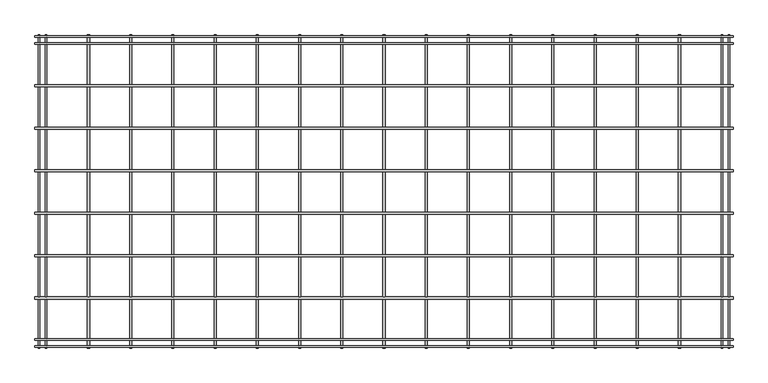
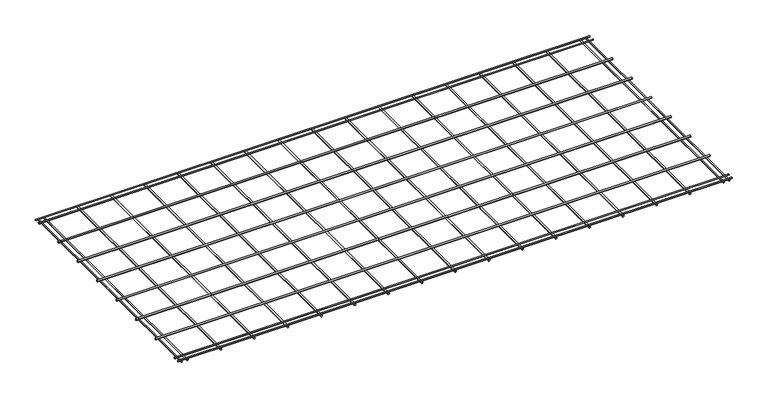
"""IFC4 building model written with IfcOpenShell, lengths in millimetres: proxy geometry, United Steel 147 Double Edge  Mesh : United Steel 147 Double Edge  Mesh."""

import ifcopenshell
import ifcopenshell.guid

model = None  # the IFC model being written
_history = None  # IfcOwnerHistory: only IFC2X3 demands one
_inside = {}  # id of a spatial element -> (the spatial element, [elements in it])
_under = {}  # id of a project, library or spatial element -> (it, [spatial elements below it])
_declared = {}  # id of a project -> (the project, [libraries it declares])
_typed = {}  # id of a type object -> (the type object, [elements of that type])
_made_of = {}  # id of a material, layer set ... -> (it, [elements and type objects made of it])


def new_model(schema):
    """Start an empty IFC model of exactly this schema.

    Asked for "IFC4X3", IfcOpenShell would pick the latest addendum, in which some entities
    have other attributes; the version numbers below select the first issue.
    IFC2X3 requires an IfcOwnerHistory on every rooted entity: one is made here for all.
    """
    global model, _history
    if schema == "IFC4X3":
        model = ifcopenshell.file(schema_version=(4, 3, 0, 0))
    else:
        model = ifcopenshell.file(schema=schema)
    _inside.clear()
    _under.clear()
    _declared.clear()
    _typed.clear()
    _made_of.clear()
    _history = None
    if model.schema == "IFC2X3":
        org = make("IfcOrganization", Name="unknown")
        user = make(
            "IfcPersonAndOrganization",
            ThePerson=make("IfcPerson", FamilyName="unknown"),
            TheOrganization=org,
        )
        app = make(
            "IfcApplication",
            ApplicationDeveloper=org,
            Version="unknown",
            ApplicationFullName="unknown",
            ApplicationIdentifier="unknown",
        )
        _history = make(
            "IfcOwnerHistory",
            OwningUser=user,
            OwningApplication=app,
            ChangeAction="ADDED",
            CreationDate=0,
        )
    return model


def make(cls, **values):
    """One entity of the class cls with the attributes given. An attribute that is None is left unset."""
    return model.create_entity(
        cls, **{name: value for name, value in values.items() if value is not None}
    )


def rooted(cls, **values):
    """An entity with a GlobalId (a new one), such as an element, a storey or a relation."""
    return make(cls, GlobalId=ifcopenshell.guid.new(), OwnerHistory=_history, **values)


def si_unit(unit_type, name, prefix=None):
    """IfcSIUnit, for example si_unit("LENGTHUNIT", "METRE", prefix="MILLI")."""
    return make("IfcSIUnit", UnitType=unit_type, Prefix=prefix, Name=name)


def assignment(units):
    """IfcUnitAssignment: the units of a project."""
    return None if units is None else make("IfcUnitAssignment", Units=units)


def point(xyz):
    """IfcCartesianPoint."""
    return None if xyz is None else make("IfcCartesianPoint", Coordinates=xyz)


def direction(xyz):
    """IfcDirection."""
    return None if xyz is None else make("IfcDirection", DirectionRatios=xyz)


def frame(location, z_axis=None, x_axis=None):
    """IfcAxis2Placement3D, a coordinate frame: its origin and axes. An axis left out is left unset."""
    return make(
        "IfcAxis2Placement3D",
        Location=point(location),
        Axis=direction(z_axis),
        RefDirection=direction(x_axis),
    )


def frame_2d(location, x_axis=None):
    """IfcAxis2Placement2D, a coordinate frame in the plane: its origin and x axis."""
    return make(
        "IfcAxis2Placement2D", Location=point(location), RefDirection=direction(x_axis)
    )


def origin():
    """The frame at (0, 0, 0) with its axes left unset."""
    return frame((0.0, 0.0, 0.0))


def place(relative_to, where):
    """IfcLocalPlacement: puts the frame where relative to a parent placement (None: the world)."""
    return make(
        "IfcLocalPlacement", PlacementRelTo=relative_to, RelativePlacement=where
    )


def context(
    kind, dimensions, precision=None, world=None, true_north=None, identifier=None
):
    """IfcGeometricRepresentationContext, for example the 3D "Model" context."""
    return make(
        "IfcGeometricRepresentationContext",
        ContextIdentifier=identifier,
        ContextType=kind,
        CoordinateSpaceDimension=dimensions,
        Precision=precision,
        WorldCoordinateSystem=world,
        TrueNorth=true_north,
    )


def project(units=None, contexts=None):
    """IfcProject with its units and contexts."""
    return rooted(
        "IfcProject",
        Name="project",
        RepresentationContexts=contexts,
        UnitsInContext=assignment(units),
    )


def spatial(cls, under=None, at=None, **own):
    """A site, building, storey or space (cls), placed at a placement, below another one or the project."""
    s = rooted(cls, ObjectPlacement=at, **own)
    if under is not None:
        _under.setdefault(under.id(), (under, []))[1].append(s)
    return s


def circle_curve(where, radius):
    """IfcCircle in the frame where."""
    return make("IfcCircle", Position=where, Radius=radius)


def trimmed(basis, trim1, trim2, sense, master):
    """IfcTrimmedCurve: the piece of a basis curve between two trims."""
    return make(
        "IfcTrimmedCurve",
        BasisCurve=basis,
        Trim1=trim1,
        Trim2=trim2,
        SenseAgreement=sense,
        MasterRepresentation=master,
    )


def segment(curve, same_sense, transition):
    """IfcCompositeCurveSegment."""
    return make(
        "IfcCompositeCurveSegment",
        Transition=transition,
        SameSense=same_sense,
        ParentCurve=curve,
    )


def composite_curve(segments, self_intersect=None):
    """IfcCompositeCurve: segments joined end to end."""
    return make("IfcCompositeCurve", Segments=segments, SelfIntersect=self_intersect)


def outline(outer, holes=None, kind="AREA"):
    """IfcArbitraryClosedProfileDef: a profile drawn as a closed curve; with holes, ...WithVoids."""
    if holes is None:
        return make("IfcArbitraryClosedProfileDef", ProfileType=kind, OuterCurve=outer)
    return make(
        "IfcArbitraryProfileDefWithVoids",
        ProfileType=kind,
        OuterCurve=outer,
        InnerCurves=holes,
    )


def extrude(swept, where, along, depth):
    """IfcExtrudedAreaSolid: the profile swept, set in the frame where, extruded along a direction by depth."""
    return make(
        "IfcExtrudedAreaSolid",
        SweptArea=swept,
        Position=where,
        ExtrudedDirection=direction(along),
        Depth=depth,
    )


def shape(context_of_items, identifier, shape_type, items):
    """IfcShapeRepresentation: the items that make up one representation, for example the "Body"."""
    return make(
        "IfcShapeRepresentation",
        ContextOfItems=context_of_items,
        RepresentationIdentifier=identifier,
        RepresentationType=shape_type,
        Items=items,
    )


def source(mapping_origin, context_of_items, identifier, shape_type, items):
    """IfcRepresentationMap: a shape defined once, which mapped items show again and again."""
    return make(
        "IfcRepresentationMap",
        MappingOrigin=mapping_origin,
        MappedRepresentation=shape(context_of_items, identifier, shape_type, items),
    )


def transform(
    local_origin,
    x_axis=None,
    y_axis=None,
    z_axis=None,
    scale=None,
    scale2=None,
    scale3=None,
    uniform=True,
):
    """IfcCartesianTransformationOperator3D, or its non-uniform kind. x_axis, y_axis, z_axis: its Axis1, 2, 3."""
    if uniform:
        return make(
            "IfcCartesianTransformationOperator3D",
            Axis1=direction(x_axis),
            Axis2=direction(y_axis),
            LocalOrigin=point(local_origin),
            Scale=scale,
            Axis3=direction(z_axis),
        )
    return make(
        "IfcCartesianTransformationOperator3DnonUniform",
        Axis1=direction(x_axis),
        Axis2=direction(y_axis),
        LocalOrigin=point(local_origin),
        Scale=scale,
        Axis3=direction(z_axis),
        Scale2=scale2,
        Scale3=scale3,
    )


def mapped(mapping_source, mapping_target):
    """IfcMappedItem: shows the shape of a source again, moved by a transform."""
    return make(
        "IfcMappedItem", MappingSource=mapping_source, MappingTarget=mapping_target
    )


def made_of(thing, what):
    """Note that an element or type object is made of a material, layer set ...; save() writes the relation."""
    if what is not None:
        _made_of.setdefault(what.id(), (what, []))[1].append(thing)
    return thing


def element(
    cls,
    number,
    at=None,
    inside=None,
    cuts=None,
    type_object=None,
    material=None,
    context=None,
    identifier="Body",
    shape_type=None,
    held_by="IfcProductDefinitionShape",
    body=None,
    shapes=None,
    **own,
):
    """One element of the class cls, such as IfcWall. Its Tag is "e" and its number.

    at: its placement. inside: the storey or other place that contains it. cuts: it is an
    opening in that element (IfcRelVoidsElement). A single representation is given by context,
    identifier, shape_type and body (its items); several are given by shapes. held_by: the class
    of the entity that holds the representations. save() writes the other relations.
    """
    e = rooted(cls, Tag="e%d" % number, ObjectPlacement=at, **own)
    if body is not None:
        shapes = [shape(context, identifier, shape_type, body)]
    if shapes is not None:
        e.Representation = make(held_by, Representations=shapes)
    if inside is not None:
        _inside.setdefault(inside.id(), (inside, []))[1].append(e)
    if cuts is not None:
        rooted(
            "IfcRelVoidsElement", RelatingBuildingElement=cuts, RelatedOpeningElement=e
        )
    if type_object is not None:
        _typed.setdefault(type_object.id(), (type_object, []))[1].append(e)
    return made_of(e, material)


def aggregate(whole, parts):
    """IfcRelAggregates: a whole, such as a stair, and the parts it consists of."""
    return rooted("IfcRelAggregates", RelatingObject=whole, RelatedObjects=parts)


def save(model, path):
    """Write the relations noted so far, then the file.

    IfcRelAggregates (storeys below a building ...), IfcRelContainedInSpatialStructure (elements
    in a storey), IfcRelDefinesByType, IfcRelAssociatesMaterial and IfcRelDeclares: one each for
    every whole, place, type object, material and project.
    """
    for whole, parts in _under.values():
        aggregate(whole, parts)
    for where, things in _inside.values():
        rooted(
            "IfcRelContainedInSpatialStructure",
            RelatedElements=things,
            RelatingStructure=where,
        )
    for kind, things in _typed.values():
        rooted("IfcRelDefinesByType", RelatedObjects=things, RelatingType=kind)
    for what, things in _made_of.values():
        rooted("IfcRelAssociatesMaterial", RelatedObjects=things, RelatingMaterial=what)
    for by, libraries in _declared.values():
        rooted("IfcRelDeclares", RelatingContext=by, RelatedDefinitions=libraries)
    model.write(path)


def generic_models_3174299a(model_context):
    return source(origin(), model_context, "Body", "SweptSolid", [
        extrude(outline(composite_curve([segment(trimmed(circle_curve(frame_2d((-2159.9992801, 20.220785)), 5.3), [point((-2154.6992801, 20.220785))], [point((-2165.2992801, 20.220785))], False, "CARTESIAN"), True, "CONTINUOUS"), segment(trimmed(circle_curve(frame_2d((-2159.9992801, 20.220785)), 5.3), [point((-2165.2992801, 20.220785))], [point((-2154.6992801, 20.220785))], False, "CARTESIAN"), True, "CONTINUOUS")], self_intersect=False)), frame((-4950.0, 0.0, 0.0), z_axis=(1.0, 0.0, 0.0), x_axis=(0.0, 1.0, 0.0)), (0.0, 0.0, 1.0), 4950.0),
        extrude(outline(composite_curve([segment(trimmed(circle_curve(frame_2d((-2209.9992801, 20.220785)), 5.3), [point((-2204.6992801, 20.220785))], [point((-2215.2992801, 20.220785))], False, "CARTESIAN"), True, "CONTINUOUS"), segment(trimmed(circle_curve(frame_2d((-2209.9992801, 20.220785)), 5.3), [point((-2215.2992801, 20.220785))], [point((-2204.6992801, 20.220785))], False, "CARTESIAN"), True, "CONTINUOUS")], self_intersect=False)), frame((-4950.0, 0.0, 0.0), z_axis=(1.0, 0.0, 0.0), x_axis=(0.0, 1.0, 0.0)), (0.0, 0.0, 1.0), 4950.0),
        extrude(outline(composite_curve([segment(trimmed(circle_curve(frame_2d((9.684424, -4869.9995481)), 5.3), [point((9.684424, -4875.2995481))], [point((9.684424, -4864.6995481))], False, "CARTESIAN"), True, "CONTINUOUS"), segment(trimmed(circle_curve(frame_2d((9.684424, -4869.9995481)), 5.3), [point((9.684424, -4864.6995481))], [point((9.684424, -4875.2995481))], False, "CARTESIAN"), True, "CONTINUOUS")], self_intersect=False)), frame((0.0, -2220.0, 0.0), z_axis=(0.0, 1.0, 0.0), x_axis=(0.0, 0.0, 1.0)), (0.0, 0.0, 1.0), 2220.0),
        extrude(outline(composite_curve([segment(trimmed(circle_curve(frame_2d((9.684424, -4920.0004519)), 5.3), [point((9.684424, -4914.7004519))], [point((9.684424, -4925.3004519))], False, "CARTESIAN"), True, "CONTINUOUS"), segment(trimmed(circle_curve(frame_2d((9.684424, -4920.0004519)), 5.3), [point((9.684424, -4925.3004519))], [point((9.684424, -4914.7004519))], False, "CARTESIAN"), True, "CONTINUOUS")], self_intersect=False)), frame((0.0, -2220.0, 0.0), z_axis=(0.0, 1.0, 0.0), x_axis=(0.0, 0.0, 1.0)), (0.0, 0.0, 1.0), 2220.0),
        extrude(outline(composite_curve([segment(trimmed(circle_curve(frame_2d((-1564.5282591, 22.48641)), 7.5), [point((-1572.0282591, 22.48641))], [point((-1557.0282591, 22.48641))], False, "CARTESIAN"), True, "CONTINUOUS"), segment(trimmed(circle_curve(frame_2d((-1564.5282591, 22.48641)), 7.5), [point((-1557.0282591, 22.48641))], [point((-1572.0282591, 22.48641))], False, "CARTESIAN"), True, "CONTINUOUS")], self_intersect=False)), frame((-4950.0, 0.0, 0.0), z_axis=(1.0, 0.0, 0.0), x_axis=(0.0, 1.0, 0.0)), (0.0, 0.0, 1.0), 4950.0),
        extrude(outline(composite_curve([segment(trimmed(circle_curve(frame_2d((-1263.4565182, 22.48641)), 7.5), [point((-1270.9565182, 22.48641))], [point((-1255.9565182, 22.48641))], False, "CARTESIAN"), True, "CONTINUOUS"), segment(trimmed(circle_curve(frame_2d((-1263.4565182, 22.48641)), 7.5), [point((-1255.9565182, 22.48641))], [point((-1270.9565182, 22.48641))], False, "CARTESIAN"), True, "CONTINUOUS")], self_intersect=False)), frame((-4950.0, 0.0, 0.0), z_axis=(1.0, 0.0, 0.0), x_axis=(0.0, 1.0, 0.0)), (0.0, 0.0, 1.0), 4950.0),
        extrude(outline(composite_curve([segment(trimmed(circle_curve(frame_2d((-962.3847773, 22.48641)), 7.5), [point((-969.8847773, 22.48641))], [point((-954.8847773, 22.48641))], False, "CARTESIAN"), True, "CONTINUOUS"), segment(trimmed(circle_curve(frame_2d((-962.3847773, 22.48641)), 7.5), [point((-954.8847773, 22.48641))], [point((-969.8847773, 22.48641))], False, "CARTESIAN"), True, "CONTINUOUS")], self_intersect=False)), frame((-4950.0, 0.0, 0.0), z_axis=(1.0, 0.0, 0.0), x_axis=(0.0, 1.0, 0.0)), (0.0, 0.0, 1.0), 4950.0),
        extrude(outline(composite_curve([segment(trimmed(circle_curve(frame_2d((-661.3130364, 22.48641)), 7.5), [point((-668.8130364, 22.48641))], [point((-653.8130364, 22.48641))], False, "CARTESIAN"), True, "CONTINUOUS"), segment(trimmed(circle_curve(frame_2d((-661.3130364, 22.48641)), 7.5), [point((-653.8130364, 22.48641))], [point((-668.8130364, 22.48641))], False, "CARTESIAN"), True, "CONTINUOUS")], self_intersect=False)), frame((-4950.0, 0.0, 0.0), z_axis=(1.0, 0.0, 0.0), x_axis=(0.0, 1.0, 0.0)), (0.0, 0.0, 1.0), 4950.0),
        extrude(outline(composite_curve([segment(trimmed(circle_curve(frame_2d((-1865.6, 22.48641)), 7.5), [point((-1873.1, 22.48641))], [point((-1858.1, 22.48641))], False, "CARTESIAN"), True, "CONTINUOUS"), segment(trimmed(circle_curve(frame_2d((-1865.6, 22.48641)), 7.5), [point((-1858.1, 22.48641))], [point((-1873.1, 22.48641))], False, "CARTESIAN"), True, "CONTINUOUS")], self_intersect=False)), frame((-4950.0, 0.0, 0.0), z_axis=(1.0, 0.0, 0.0), x_axis=(0.0, 1.0, 0.0)), (0.0, 0.0, 1.0), 4950.0),
        extrude(outline(composite_curve([segment(trimmed(circle_curve(frame_2d((-60.0007199, 20.220785)), 5.3), [point((-65.3007199, 20.220785))], [point((-54.7007199, 20.220785))], False, "CARTESIAN"), True, "CONTINUOUS"), segment(trimmed(circle_curve(frame_2d((-60.0007199, 20.220785)), 5.3), [point((-54.7007199, 20.220785))], [point((-65.3007199, 20.220785))], False, "CARTESIAN"), True, "CONTINUOUS")], self_intersect=False)), frame((-4950.0, 0.0, 0.0), z_axis=(1.0, 0.0, 0.0), x_axis=(0.0, 1.0, 0.0)), (0.0, 0.0, 1.0), 4950.0),
        extrude(outline(composite_curve([segment(trimmed(circle_curve(frame_2d((7.496924, -4270.7186988)), 7.5), [point((7.496924, -4278.2186988))], [point((7.496924, -4263.2186988))], False, "CARTESIAN"), True, "CONTINUOUS"), segment(trimmed(circle_curve(frame_2d((7.496924, -4270.7186988)), 7.5), [point((7.496924, -4263.2186988))], [point((7.496924, -4278.2186988))], False, "CARTESIAN"), True, "CONTINUOUS")], self_intersect=False)), frame((0.0, -2220.0, 0.0), z_axis=(0.0, 1.0, 0.0), x_axis=(0.0, 0.0, 1.0)), (0.0, 0.0, 1.0), 2220.0),
        extrude(outline(composite_curve([segment(trimmed(circle_curve(frame_2d((7.496924, -3971.4327755)), 7.5), [point((7.496924, -3978.9327755))], [point((7.496924, -3963.9327755))], False, "CARTESIAN"), True, "CONTINUOUS"), segment(trimmed(circle_curve(frame_2d((7.496924, -3971.4327755)), 7.5), [point((7.496924, -3963.9327755))], [point((7.496924, -3978.9327755))], False, "CARTESIAN"), True, "CONTINUOUS")], self_intersect=False)), frame((0.0, -2220.0, 0.0), z_axis=(0.0, 1.0, 0.0), x_axis=(0.0, 0.0, 1.0)), (0.0, 0.0, 1.0), 2220.0),
        extrude(outline(composite_curve([segment(trimmed(circle_curve(frame_2d((7.496924, -3672.1468523)), 7.5), [point((7.496924, -3679.6468523))], [point((7.496924, -3664.6468523))], False, "CARTESIAN"), True, "CONTINUOUS"), segment(trimmed(circle_curve(frame_2d((7.496924, -3672.1468523)), 7.5), [point((7.496924, -3664.6468523))], [point((7.496924, -3679.6468523))], False, "CARTESIAN"), True, "CONTINUOUS")], self_intersect=False)), frame((0.0, -2220.0, 0.0), z_axis=(0.0, 1.0, 0.0), x_axis=(0.0, 0.0, 1.0)), (0.0, 0.0, 1.0), 2220.0),
        extrude(outline(composite_curve([segment(trimmed(circle_curve(frame_2d((7.496924, -3372.8609291)), 7.5), [point((7.496924, -3380.3609291))], [point((7.496924, -3365.3609291))], False, "CARTESIAN"), True, "CONTINUOUS"), segment(trimmed(circle_curve(frame_2d((7.496924, -3372.8609291)), 7.5), [point((7.496924, -3365.3609291))], [point((7.496924, -3380.3609291))], False, "CARTESIAN"), True, "CONTINUOUS")], self_intersect=False)), frame((0.0, -2220.0, 0.0), z_axis=(0.0, 1.0, 0.0), x_axis=(0.0, 0.0, 1.0)), (0.0, 0.0, 1.0), 2220.0),
        extrude(outline(composite_curve([segment(trimmed(circle_curve(frame_2d((7.496924, -3073.5750058)), 7.5), [point((7.496924, -3081.0750058))], [point((7.496924, -3066.0750058))], False, "CARTESIAN"), True, "CONTINUOUS"), segment(trimmed(circle_curve(frame_2d((7.496924, -3073.5750058)), 7.5), [point((7.496924, -3066.0750058))], [point((7.496924, -3081.0750058))], False, "CARTESIAN"), True, "CONTINUOUS")], self_intersect=False)), frame((0.0, -2220.0, 0.0), z_axis=(0.0, 1.0, 0.0), x_axis=(0.0, 0.0, 1.0)), (0.0, 0.0, 1.0), 2220.0),
        extrude(outline(composite_curve([segment(trimmed(circle_curve(frame_2d((7.496924, -2774.2890826)), 7.5), [point((7.496924, -2781.7890826))], [point((7.496924, -2766.7890826))], False, "CARTESIAN"), True, "CONTINUOUS"), segment(trimmed(circle_curve(frame_2d((7.496924, -2774.2890826)), 7.5), [point((7.496924, -2766.7890826))], [point((7.496924, -2781.7890826))], False, "CARTESIAN"), True, "CONTINUOUS")], self_intersect=False)), frame((0.0, -2220.0, 0.0), z_axis=(0.0, 1.0, 0.0), x_axis=(0.0, 0.0, 1.0)), (0.0, 0.0, 1.0), 2220.0),
        extrude(outline(composite_curve([segment(trimmed(circle_curve(frame_2d((7.496924, -2475.0031594)), 7.5), [point((7.496924, -2482.5031594))], [point((7.496924, -2467.5031594))], False, "CARTESIAN"), True, "CONTINUOUS"), segment(trimmed(circle_curve(frame_2d((7.496924, -2475.0031594)), 7.5), [point((7.496924, -2467.5031594))], [point((7.496924, -2482.5031594))], False, "CARTESIAN"), True, "CONTINUOUS")], self_intersect=False)), frame((0.0, -2220.0, 0.0), z_axis=(0.0, 1.0, 0.0), x_axis=(0.0, 0.0, 1.0)), (0.0, 0.0, 1.0), 2220.0),
        extrude(outline(composite_curve([segment(trimmed(circle_curve(frame_2d((7.496924, -2175.7172362)), 7.5), [point((7.496924, -2183.2172362))], [point((7.496924, -2168.2172362))], False, "CARTESIAN"), True, "CONTINUOUS"), segment(trimmed(circle_curve(frame_2d((7.496924, -2175.7172362)), 7.5), [point((7.496924, -2168.2172362))], [point((7.496924, -2183.2172362))], False, "CARTESIAN"), True, "CONTINUOUS")], self_intersect=False)), frame((0.0, -2220.0, 0.0), z_axis=(0.0, 1.0, 0.0), x_axis=(0.0, 0.0, 1.0)), (0.0, 0.0, 1.0), 2220.0),
        extrude(outline(composite_curve([segment(trimmed(circle_curve(frame_2d((7.496924, -1876.4313129)), 7.5), [point((7.496924, -1883.9313129))], [point((7.496924, -1868.9313129))], False, "CARTESIAN"), True, "CONTINUOUS"), segment(trimmed(circle_curve(frame_2d((7.496924, -1876.4313129)), 7.5), [point((7.496924, -1868.9313129))], [point((7.496924, -1883.9313129))], False, "CARTESIAN"), True, "CONTINUOUS")], self_intersect=False)), frame((0.0, -2220.0, 0.0), z_axis=(0.0, 1.0, 0.0), x_axis=(0.0, 0.0, 1.0)), (0.0, 0.0, 1.0), 2220.0),
        extrude(outline(composite_curve([segment(trimmed(circle_curve(frame_2d((7.496924, -1577.1453897)), 7.5), [point((7.496924, -1584.6453897))], [point((7.496924, -1569.6453897))], False, "CARTESIAN"), True, "CONTINUOUS"), segment(trimmed(circle_curve(frame_2d((7.496924, -1577.1453897)), 7.5), [point((7.496924, -1569.6453897))], [point((7.496924, -1584.6453897))], False, "CARTESIAN"), True, "CONTINUOUS")], self_intersect=False)), frame((0.0, -2220.0, 0.0), z_axis=(0.0, 1.0, 0.0), x_axis=(0.0, 0.0, 1.0)), (0.0, 0.0, 1.0), 2220.0),
        extrude(outline(composite_curve([segment(trimmed(circle_curve(frame_2d((7.496924, -1277.8594665)), 7.5), [point((7.496924, -1285.3594665))], [point((7.496924, -1270.3594665))], False, "CARTESIAN"), True, "CONTINUOUS"), segment(trimmed(circle_curve(frame_2d((7.496924, -1277.8594665)), 7.5), [point((7.496924, -1270.3594665))], [point((7.496924, -1285.3594665))], False, "CARTESIAN"), True, "CONTINUOUS")], self_intersect=False)), frame((0.0, -2220.0, 0.0), z_axis=(0.0, 1.0, 0.0), x_axis=(0.0, 0.0, 1.0)), (0.0, 0.0, 1.0), 2220.0),
        extrude(outline(composite_curve([segment(trimmed(circle_curve(frame_2d((7.496924, -978.5735432)), 7.5), [point((7.496924, -986.0735432))], [point((7.496924, -971.0735432))], False, "CARTESIAN"), True, "CONTINUOUS"), segment(trimmed(circle_curve(frame_2d((7.496924, -978.5735432)), 7.5), [point((7.496924, -971.0735432))], [point((7.496924, -986.0735432))], False, "CARTESIAN"), True, "CONTINUOUS")], self_intersect=False)), frame((0.0, -2220.0, 0.0), z_axis=(0.0, 1.0, 0.0), x_axis=(0.0, 0.0, 1.0)), (0.0, 0.0, 1.0), 2220.0),
        extrude(outline(composite_curve([segment(trimmed(circle_curve(frame_2d((7.496924, -679.28762)), 7.5), [point((7.496924, -686.78762))], [point((7.496924, -671.78762))], False, "CARTESIAN"), True, "CONTINUOUS"), segment(trimmed(circle_curve(frame_2d((7.496924, -679.28762)), 7.5), [point((7.496924, -671.78762))], [point((7.496924, -686.78762))], False, "CARTESIAN"), True, "CONTINUOUS")], self_intersect=False)), frame((0.0, -2220.0, 0.0), z_axis=(0.0, 1.0, 0.0), x_axis=(0.0, 0.0, 1.0)), (0.0, 0.0, 1.0), 2220.0),
        extrude(outline(composite_curve([segment(trimmed(circle_curve(frame_2d((7.496924, -4570.004622)), 7.5), [point((7.496924, -4577.504622))], [point((7.496924, -4562.504622))], False, "CARTESIAN"), True, "CONTINUOUS"), segment(trimmed(circle_curve(frame_2d((7.496924, -4570.004622)), 7.5), [point((7.496924, -4562.504622))], [point((7.496924, -4577.504622))], False, "CARTESIAN"), True, "CONTINUOUS")], self_intersect=False)), frame((0.0, -2220.0, 0.0), z_axis=(0.0, 1.0, 0.0), x_axis=(0.0, 0.0, 1.0)), (0.0, 0.0, 1.0), 2220.0),
        extrude(outline(composite_curve([segment(trimmed(circle_curve(frame_2d((9.684424, -80.0004519)), 5.3), [point((9.684424, -74.7004519))], [point((9.684424, -85.3004519))], False, "CARTESIAN"), True, "CONTINUOUS"), segment(trimmed(circle_curve(frame_2d((9.684424, -80.0004519)), 5.3), [point((9.684424, -85.3004519))], [point((9.684424, -74.7004519))], False, "CARTESIAN"), True, "CONTINUOUS")], self_intersect=False)), frame((0.0, -2220.0, 0.0), z_axis=(0.0, 1.0, 0.0), x_axis=(0.0, 0.0, 1.0)), (0.0, 0.0, 1.0), 2220.0),
        extrude(outline(composite_curve([segment(trimmed(circle_curve(frame_2d((-360.2412954, 22.48641)), 7.5), [point((-367.7412954, 22.48641))], [point((-352.7412954, 22.48641))], False, "CARTESIAN"), True, "CONTINUOUS"), segment(trimmed(circle_curve(frame_2d((-360.2412954, 22.48641)), 7.5), [point((-352.7412954, 22.48641))], [point((-367.7412954, 22.48641))], False, "CARTESIAN"), True, "CONTINUOUS")], self_intersect=False)), frame((-4950.0, 0.0, 0.0), z_axis=(1.0, 0.0, 0.0), x_axis=(0.0, 1.0, 0.0)), (0.0, 0.0, 1.0), 4950.0),
        extrude(outline(composite_curve([segment(trimmed(circle_curve(frame_2d((-10.0007199, 20.220785)), 5.3), [point((-15.3007199, 20.220785))], [point((-4.7007199, 20.220785))], False, "CARTESIAN"), True, "CONTINUOUS"), segment(trimmed(circle_curve(frame_2d((-10.0007199, 20.220785)), 5.3), [point((-4.7007199, 20.220785))], [point((-15.3007199, 20.220785))], False, "CARTESIAN"), True, "CONTINUOUS")], self_intersect=False)), frame((-4950.0, 0.0, 0.0), z_axis=(1.0, 0.0, 0.0), x_axis=(0.0, 1.0, 0.0)), (0.0, 0.0, 1.0), 4950.0),
        extrude(outline(composite_curve([segment(trimmed(circle_curve(frame_2d((7.496924, -380.0016968)), 7.5), [point((7.496924, -387.5016968))], [point((7.496924, -372.5016968))], False, "CARTESIAN"), True, "CONTINUOUS"), segment(trimmed(circle_curve(frame_2d((7.496924, -380.0016968)), 7.5), [point((7.496924, -372.5016968))], [point((7.496924, -387.5016968))], False, "CARTESIAN"), True, "CONTINUOUS")], self_intersect=False)), frame((0.0, -2220.0, 0.0), z_axis=(0.0, 1.0, 0.0), x_axis=(0.0, 0.0, 1.0)), (0.0, 0.0, 1.0), 2220.0),
        extrude(outline(composite_curve([segment(trimmed(circle_curve(frame_2d((9.684424, -29.9995481)), 5.3), [point((9.684424, -35.2995481))], [point((9.684424, -24.6995481))], False, "CARTESIAN"), True, "CONTINUOUS"), segment(trimmed(circle_curve(frame_2d((9.684424, -29.9995481)), 5.3), [point((9.684424, -24.6995481))], [point((9.684424, -35.2995481))], False, "CARTESIAN"), True, "CONTINUOUS")], self_intersect=False)), frame((0.0, -2220.0, 0.0), z_axis=(0.0, 1.0, 0.0), x_axis=(0.0, 0.0, 1.0)), (0.0, 0.0, 1.0), 2220.0),
    ])


if __name__ == "__main__":
    model = new_model("IFC4")
    model_context = context("Model", 3, world=origin())
    ifc_project = project(units=[si_unit("LENGTHUNIT", "METRE", prefix="MILLI")], contexts=[model_context])
    site = spatial("IfcSite", under=ifc_project)
    building = spatial("IfcBuilding", under=site)
    placement = place(None, origin())
    generic_models_shape = generic_models_3174299a(model_context)
    element("IfcBuildingElementProxy", 1, Name="United Steel 147 Double Edge  Mesh : United Steel 147 Double Edge  Mesh", ObjectType="United Steel 147 Double Edge  Mesh : United Steel 147 Double Edge  Mesh", at=placement, inside=building, context=model_context, shape_type="MappedRepresentation", body=[
        mapped(generic_models_shape, transform((0.0, 0.0, 0.0), x_axis=(1.0, 0.0, 0.0), y_axis=(0.0, 1.0, 0.0), z_axis=(0.0, 0.0, 1.0))),
    ])
    save(model, "model.ifc")
